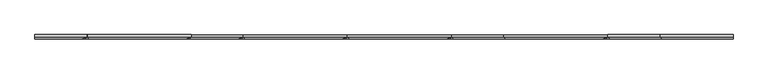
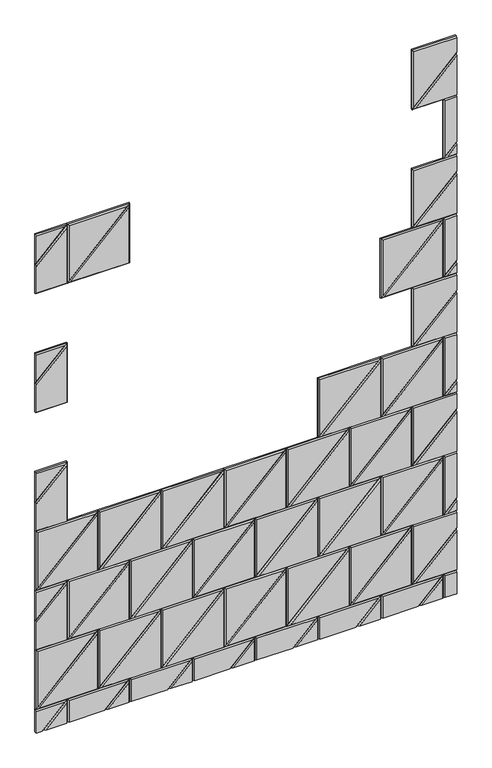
"""IFC4 building model written with IfcOpenShell, lengths in millimetres: proxy geometry, Wall_Akebia 4.3dm."""

from ifc_helpers import new_model, si_unit, origin, place, context, project, spatial, faceted_brep, source, transform, mapped, element, save


def generic_models_b079b841(model_context):
    return source(origin(), model_context, "Body", "Brep", [
        faceted_brep([(2403.2243169, 12.0, 2501.5492208), (2701.6743169, 12.0, 2501.5492208), (2403.2243169, 12.0, 2203.0992208), (2403.2243169, 6.0, 2501.5492208), (2403.2243169, 6.0, 2203.0992208), (2701.6743169, 6.0, 2501.5492208), (2687.1890355, 0.0, 2495.5492208), (2409.2243169, 0.0, 2495.5492208), (2409.2243169, 0.0, 2217.5845022)], [[[0, 1, 2]], [[3, 0, 2, 4]], [[4, 2, 1, 5]], [[5, 1, 0, 3]], [[6, 7, 8]], [[3, 4, 8, 7]], [[4, 5, 6, 8]], [[5, 3, 7, 6]]]),
        faceted_brep([(2701.6743169, 12.0, 2203.0992208), (2403.2243169, 12.0, 2203.0992208), (2701.6743169, 12.0, 2501.5492208), (2701.6743169, 6.0, 2203.0992208), (2403.2243169, 6.0, 2203.0992208), (2701.6743169, 6.0, 2501.5492208), (2695.6743169, 0.0, 2487.0639395), (2417.7095982, 0.0, 2209.0992208), (2695.6743169, 0.0, 2209.0992208)], [[[0, 1, 2]], [[3, 4, 1, 0]], [[4, 5, 2, 1]], [[5, 3, 0, 2]], [[6, 7, 8]], [[3, 8, 7, 4]], [[4, 7, 6, 5]], [[5, 6, 8, 3]]]),
        faceted_brep([(3895.4743169, 12.0, 0.0), (3895.4743169, 12.0, 113.9476625), (4193.9243169, 12.0, 113.9476625), (4079.9766543, 12.0, 0.0), (3895.4743169, 6.0, 0.0), (3895.4743169, 6.0, 113.9476625), (4079.9766543, 6.0, 0.0), (4193.9243169, 6.0, 113.9476625), (3901.4743169, 0.0, 0.0), (4071.491373, 0.0, 0.0), (4179.4390355, 0.0, 107.9476625), (3901.4743169, 0.0, 107.9476625)], [[[0, 1, 2, 3]], [[0, 4, 5, 1]], [[6, 3, 2, 7]], [[7, 2, 1, 5]], [[8, 9, 10, 11]], [[4, 8, 11, 5]], [[9, 6, 7, 10]], [[7, 5, 11, 10]], [[0, 3, 6, 9, 8, 4]]]),
        faceted_brep([(4193.9243169, 12.0, 0.0), (4079.9766543, 12.0, 0.0), (4193.9243169, 12.0, 113.9476625), (4079.9766543, 6.0, 0.0), (4193.9243169, 6.0, 113.9476625), (4193.9243169, 6.0, 0.0), (4187.9243169, 0.0, 0.0), (4187.9243169, 0.0, 99.4623811), (4088.4619357, 0.0, 0.0)], [[[0, 1, 2]], [[3, 4, 2, 1]], [[0, 2, 4, 5]], [[6, 7, 8]], [[8, 7, 4, 3]], [[5, 4, 7, 6]], [[0, 5, 6, 8, 3, 1]]]),
        faceted_brep([(4254.0, 12.0, 0.0), (4193.925, 12.0, 0.0), (4193.925, 12.0, 113.9484417), (4254.0, 12.0, 113.9484417), (4193.925, 6.0, 0.0), (4193.925, 6.0, 113.9484417), (4254.0, 6.0, 113.9484417), (4199.925, 0.0, 0.0), (4254.0, 0.0, 0.0), (4254.0, 0.0, 107.9484417), (4199.925, 0.0, 107.9484417)], [[[0, 1, 2, 3]], [[1, 4, 5, 2]], [[6, 3, 2, 5]], [[7, 8, 9, 10]], [[4, 7, 10, 5]], [[9, 6, 5, 10]], [[7, 4, 1, 0, 8]], [[0, 3, 6, 9, 8]]]),
        faceted_brep([(3597.0243169, 12.0, 0.0), (3597.0243169, 12.0, 113.9476625), (3895.4743169, 12.0, 113.9476625), (3781.5266543, 12.0, 0.0), (3597.0243169, 6.0, 0.0), (3597.0243169, 6.0, 113.9476625), (3781.5266543, 6.0, 0.0), (3895.4743169, 6.0, 113.9476625), (3603.0243169, 0.0, 0.0), (3773.041373, 0.0, 0.0), (3880.9890355, 0.0, 107.9476625), (3603.0243169, 0.0, 107.9476625)], [[[0, 1, 2, 3]], [[0, 4, 5, 1]], [[6, 3, 2, 7]], [[7, 2, 1, 5]], [[8, 9, 10, 11]], [[4, 8, 11, 5]], [[9, 6, 7, 10]], [[7, 5, 11, 10]], [[0, 3, 6, 9, 8, 4]]]),
        faceted_brep([(3895.4743169, 12.0, 0.0), (3781.5266543, 12.0, 0.0), (3895.4743169, 12.0, 113.9476625), (3781.5266543, 6.0, 0.0), (3895.4743169, 6.0, 113.9476625), (3895.4743169, 6.0, 0.0), (3889.4743169, 0.0, 0.0), (3889.4743169, 0.0, 99.4623811), (3790.0119357, 0.0, 0.0)], [[[0, 1, 2]], [[3, 4, 2, 1]], [[0, 2, 4, 5]], [[6, 7, 8]], [[8, 7, 4, 3]], [[5, 4, 7, 6]], [[0, 5, 6, 8, 3, 1]]]),
        faceted_brep([(3483.0767504, 12.0, 0.0), (3597.0236337, 12.0, 113.9468834), (3597.0236337, 12.0, 0.0), (3597.0236337, 6.0, 0.0), (3597.0236337, 6.0, 113.9468834), (3483.0767504, 6.0, 0.0), (3491.5620317, 0.0, 0.0), (3591.0236337, 0.0, 0.0), (3591.0236337, 0.0, 99.461602)], [[[0, 1, 2]], [[3, 2, 1, 4]], [[0, 5, 4, 1]], [[6, 7, 8]], [[7, 3, 4, 8]], [[5, 6, 8, 4]], [[0, 2, 3, 7, 6, 5]]]),
        faceted_brep([(3483.0767504, 12.0, 0.0), (3298.5736337, 12.0, 0.0), (3298.5736337, 12.0, 113.9468834), (3597.0236337, 12.0, 113.9468834), (3298.5736337, 6.0, 113.9468834), (3597.0236337, 6.0, 113.9468834), (3483.0767504, 6.0, 0.0), (3298.5736337, 6.0, 0.0), (3474.591469, 0.0, 0.0), (3582.5383524, 0.0, 107.9468834), (3304.5736337, 0.0, 107.9468834), (3304.5736337, 0.0, 0.0)], [[[0, 1, 2, 3]], [[4, 5, 3, 2]], [[0, 3, 5, 6]], [[7, 4, 2, 1]], [[8, 9, 10, 11]], [[4, 10, 9, 5]], [[6, 5, 9, 8]], [[11, 10, 4, 7]], [[0, 6, 8, 11, 7, 1]]]),
        faceted_brep([(3000.1236337, 12.0, 0.0), (3000.1236337, 12.0, 113.9468834), (3298.5736337, 12.0, 113.9468834), (3184.6267504, 12.0, 0.0), (3000.1236337, 6.0, 0.0), (3000.1236337, 6.0, 113.9468834), (3184.6267504, 6.0, 0.0), (3298.5736337, 6.0, 113.9468834), (3006.1236337, 0.0, 0.0), (3176.141469, 0.0, 0.0), (3284.0883524, 0.0, 107.9468834), (3006.1236337, 0.0, 107.9468834)], [[[0, 1, 2, 3]], [[0, 4, 5, 1]], [[6, 3, 2, 7]], [[7, 2, 1, 5]], [[8, 9, 10, 11]], [[4, 8, 11, 5]], [[9, 6, 7, 10]], [[7, 5, 11, 10]], [[0, 3, 6, 9, 8, 4]]]),
        faceted_brep([(3298.5736337, 12.0, 0.0), (3184.6267504, 12.0, 0.0), (3298.5736337, 12.0, 113.9468834), (3184.6267504, 6.0, 0.0), (3298.5736337, 6.0, 113.9468834), (3298.5736337, 6.0, 0.0), (3292.5736337, 0.0, 0.0), (3292.5736337, 0.0, 99.461602), (3193.1120317, 0.0, 0.0)], [[[0, 1, 2]], [[3, 4, 2, 1]], [[0, 2, 4, 5]], [[6, 7, 8]], [[8, 7, 4, 3]], [[5, 4, 7, 6]], [[0, 5, 6, 8, 3, 1]]]),
        faceted_brep([(2886.1768464, 12.0, 0.0), (3000.1229506, 12.0, 113.9461042), (3000.1229506, 12.0, 0.0), (3000.1229506, 6.0, 0.0), (3000.1229506, 6.0, 113.9461042), (2886.1768464, 6.0, 0.0), (2894.6621278, 0.0, 0.0), (2994.1229506, 0.0, 0.0), (2994.1229506, 0.0, 99.4608228)], [[[0, 1, 2]], [[3, 2, 1, 4]], [[0, 5, 4, 1]], [[6, 7, 8]], [[7, 3, 4, 8]], [[5, 6, 8, 4]], [[0, 2, 3, 7, 6, 5]]]),
        faceted_brep([(2886.1768464, 12.0, 0.0), (2701.6729506, 12.0, 0.0), (2701.6729506, 12.0, 113.9461042), (3000.1229506, 12.0, 113.9461042), (2701.6729506, 6.0, 113.9461042), (3000.1229506, 6.0, 113.9461042), (2886.1768464, 6.0, 0.0), (2701.6729506, 6.0, 0.0), (2877.691565, 0.0, 0.0), (2985.6376692, 0.0, 107.9461042), (2707.6729506, 0.0, 107.9461042), (2707.6729506, 0.0, 0.0)], [[[0, 1, 2, 3]], [[4, 5, 3, 2]], [[0, 3, 5, 6]], [[7, 4, 2, 1]], [[8, 9, 10, 11]], [[4, 10, 9, 5]], [[6, 5, 9, 8]], [[11, 10, 4, 7]], [[0, 6, 8, 11, 7, 1]]]),
        faceted_brep([(2403.2229506, 12.0, 0.0), (2403.2229506, 12.0, 113.9461042), (2701.6729506, 12.0, 113.9461042), (2587.7268464, 12.0, 0.0), (2403.2229506, 6.0, 0.0), (2403.2229506, 6.0, 113.9461042), (2587.7268464, 6.0, 0.0), (2701.6729506, 6.0, 113.9461042), (2409.2229506, 0.0, 0.0), (2579.241565, 0.0, 0.0), (2687.1876692, 0.0, 107.9461042), (2409.2229506, 0.0, 107.9461042)], [[[0, 1, 2, 3]], [[0, 4, 5, 1]], [[6, 3, 2, 7]], [[7, 2, 1, 5]], [[8, 9, 10, 11]], [[4, 8, 11, 5]], [[9, 6, 7, 10]], [[7, 5, 11, 10]], [[0, 3, 6, 9, 8, 4]]]),
        faceted_brep([(2701.6729506, 12.0, 0.0), (2587.7268464, 12.0, 0.0), (2701.6729506, 12.0, 113.9461042), (2587.7268464, 6.0, 0.0), (2701.6729506, 6.0, 113.9461042), (2701.6729506, 6.0, 0.0), (2695.6729506, 0.0, 0.0), (2695.6729506, 0.0, 99.4608228), (2596.2121278, 0.0, 0.0)], [[[0, 1, 2]], [[3, 4, 2, 1]], [[0, 2, 4, 5]], [[6, 7, 8]], [[8, 7, 4, 3]], [[5, 4, 7, 6]], [[0, 5, 6, 8, 3, 1]]]),
        faceted_brep([(2289.2769424, 12.0, 0.0), (2403.2222675, 12.0, 113.945325), (2403.2222675, 12.0, 0.0), (2403.2222675, 6.0, 0.0), (2403.2222675, 6.0, 113.945325), (2289.2769424, 6.0, 0.0), (2297.7622238, 0.0, 0.0), (2397.2222675, 0.0, 0.0), (2397.2222675, 0.0, 99.4600437)], [[[0, 1, 2]], [[3, 2, 1, 4]], [[0, 5, 4, 1]], [[6, 7, 8]], [[7, 3, 4, 8]], [[5, 6, 8, 4]], [[0, 2, 3, 7, 6, 5]]]),
        faceted_brep([(2254.0, 12.0, 0.0), (2254.0, 12.0, 113.945325), (2403.2222675, 12.0, 113.945325), (2289.2769424, 12.0, 0.0), (2254.0, 6.0, 113.945325), (2403.2222675, 6.0, 113.945325), (2289.2769424, 6.0, 0.0), (2280.7916611, 0.0, 0.0), (2388.7369861, 0.0, 107.945325), (2254.0, 0.0, 107.945325), (2254.0, 0.0, 0.0)], [[[0, 1, 2, 3]], [[4, 5, 2, 1]], [[3, 2, 5, 6]], [[7, 8, 9, 10]], [[9, 8, 5, 4]], [[6, 5, 8, 7]], [[0, 10, 9, 4, 1]], [[7, 10, 0, 3, 6]]]),
        faceted_brep([(4254.0, 12.0, 323.2484417), (4044.7, 12.0, 113.9484417), (4044.7, 12.0, 412.3984417), (4254.0, 12.0, 412.3984417), (4044.7, 6.0, 412.3984417), (4044.7, 6.0, 113.9484417), (4254.0, 6.0, 323.2484417), (4254.0, 6.0, 412.3984417), (4254.0, 0.0, 331.7337231), (4254.0, 0.0, 406.3984417), (4050.7, 0.0, 406.3984417), (4050.7, 0.0, 128.4337231)], [[[0, 1, 2, 3]], [[4, 2, 1, 5]], [[0, 6, 5, 1]], [[7, 3, 2, 4]], [[8, 9, 10, 11]], [[4, 5, 11, 10]], [[6, 8, 11, 5]], [[9, 7, 4, 10]], [[0, 3, 7, 9, 8, 6]]]),
        faceted_brep([(4254.0, 12.0, 323.2484417), (4254.0, 12.0, 113.9484417), (4044.7, 12.0, 113.9484417), (4254.0, 6.0, 113.9484417), (4044.7, 6.0, 113.9484417), (4254.0, 6.0, 323.2484417), (4254.0, 0.0, 314.7631603), (4059.1852814, 0.0, 119.9484417), (4254.0, 0.0, 119.9484417)], [[[0, 1, 2]], [[3, 4, 2, 1]], [[0, 2, 4, 5]], [[6, 7, 8]], [[8, 7, 4, 3]], [[5, 4, 7, 6]], [[0, 5, 6, 8, 3, 1]]]),
        faceted_brep([(4254.0, 12.0, 472.4735377), (4254.0, 12.0, 412.3992208), (4193.9256831, 12.0, 412.3992208), (4254.0, 6.0, 412.3992208), (4193.9256831, 6.0, 412.3992208), (4254.0, 6.0, 472.4735377), (4254.0, 0.0, 463.9882563), (4208.4109645, 0.0, 418.3992208), (4254.0, 0.0, 418.3992208)], [[[0, 1, 2]], [[3, 4, 2, 1]], [[0, 2, 4, 5]], [[6, 7, 8]], [[8, 7, 4, 3]], [[5, 4, 7, 6]], [[0, 5, 6, 8, 3, 1]]]),
        faceted_brep([(4254.0, 12.0, 472.4735377), (4193.9256831, 12.0, 412.3992208), (4193.9256831, 12.0, 710.8492208), (4254.0, 12.0, 710.8492208), (4193.9256831, 6.0, 710.8492208), (4193.9256831, 6.0, 412.3992208), (4254.0, 6.0, 472.4735377), (4254.0, 6.0, 710.8492208), (4254.0, 0.0, 480.9588191), (4254.0, 0.0, 704.8492208), (4199.9256831, 0.0, 704.8492208), (4199.9256831, 0.0, 426.8845022)], [[[0, 1, 2, 3]], [[4, 2, 1, 5]], [[0, 6, 5, 1]], [[7, 3, 2, 4]], [[8, 9, 10, 11]], [[4, 5, 11, 10]], [[6, 8, 11, 5]], [[9, 7, 4, 10]], [[0, 3, 7, 9, 8, 6]]]),
        faceted_brep([(2254.0, 12.0, 561.6231536), (2403.2229506, 12.0, 710.8461042), (2403.2229506, 12.0, 412.3961042), (2254.0, 12.0, 412.3961042), (2403.2229506, 6.0, 412.3961042), (2403.2229506, 6.0, 710.8461042), (2254.0, 6.0, 561.6231536), (2254.0, 6.0, 412.3961042), (2254.0, 0.0, 553.1378722), (2254.0, 0.0, 418.3961042), (2397.2229506, 0.0, 418.3961042), (2397.2229506, 0.0, 696.3608228)], [[[0, 1, 2, 3]], [[4, 2, 1, 5]], [[0, 6, 5, 1]], [[7, 3, 2, 4]], [[8, 9, 10, 11]], [[4, 5, 11, 10]], [[6, 8, 11, 5]], [[9, 7, 4, 10]], [[0, 3, 7, 9, 8, 6]]]),
        faceted_brep([(2254.0, 12.0, 561.6231536), (2254.0, 12.0, 710.8461042), (2403.2229506, 12.0, 710.8461042), (2254.0, 6.0, 710.8461042), (2403.2229506, 6.0, 710.8461042), (2254.0, 6.0, 561.6231536), (2254.0, 0.0, 570.108435), (2388.7376692, 0.0, 704.8461042), (2254.0, 0.0, 704.8461042)], [[[0, 1, 2]], [[3, 4, 2, 1]], [[0, 2, 4, 5]], [[6, 7, 8]], [[8, 7, 4, 3]], [[5, 4, 7, 6]], [[0, 5, 6, 8, 3, 1]]]),
        faceted_brep([(4254.0, 12.0, 920.1485377), (4044.7006831, 12.0, 710.8492208), (4044.7006831, 12.0, 1009.2992208), (4254.0, 12.0, 1009.2992208), (4044.7006831, 6.0, 1009.2992208), (4044.7006831, 6.0, 710.8492208), (4254.0, 6.0, 920.1485377), (4254.0, 6.0, 1009.2992208), (4254.0, 0.0, 928.6338191), (4254.0, 0.0, 1003.2992208), (4050.7006831, 0.0, 1003.2992208), (4050.7006831, 0.0, 725.3345022)], [[[0, 1, 2, 3]], [[4, 2, 1, 5]], [[0, 6, 5, 1]], [[7, 3, 2, 4]], [[8, 9, 10, 11]], [[4, 5, 11, 10]], [[6, 8, 11, 5]], [[9, 7, 4, 10]], [[0, 3, 7, 9, 8, 6]]]),
        faceted_brep([(4254.0, 12.0, 920.1485377), (4254.0, 12.0, 710.8492208), (4044.7006831, 12.0, 710.8492208), (4254.0, 6.0, 710.8492208), (4044.7006831, 6.0, 710.8492208), (4254.0, 6.0, 920.1485377), (4254.0, 0.0, 911.6632563), (4059.1859645, 0.0, 716.8492208), (4254.0, 0.0, 716.8492208)], [[[0, 1, 2]], [[3, 4, 2, 1]], [[0, 2, 4, 5]], [[6, 7, 8]], [[8, 7, 4, 3]], [[5, 4, 7, 6]], [[0, 5, 6, 8, 3, 1]]]),
        faceted_brep([(4254.0, 12.0, 1069.3736337), (4254.0, 12.0, 1009.3), (4193.9263663, 12.0, 1009.3), (4254.0, 6.0, 1009.3), (4193.9263663, 6.0, 1009.3), (4254.0, 6.0, 1069.3736337), (4254.0, 0.0, 1060.8883524), (4208.4116476, 0.0, 1015.3), (4254.0, 0.0, 1015.3)], [[[0, 1, 2]], [[3, 4, 2, 1]], [[0, 2, 4, 5]], [[6, 7, 8]], [[8, 7, 4, 3]], [[5, 4, 7, 6]], [[0, 5, 6, 8, 3, 1]]]),
        faceted_brep([(4254.0, 12.0, 1069.3736337), (4193.9263663, 12.0, 1009.3), (4193.9263663, 12.0, 1307.75), (4254.0, 12.0, 1307.75), (4193.9263663, 6.0, 1307.75), (4193.9263663, 6.0, 1009.3), (4254.0, 6.0, 1069.3736337), (4254.0, 6.0, 1307.75), (4254.0, 0.0, 1077.8589151), (4254.0, 0.0, 1301.75), (4199.9263663, 0.0, 1301.75), (4199.9263663, 0.0, 1023.7852814)], [[[0, 1, 2, 3]], [[4, 2, 1, 5]], [[0, 6, 5, 1]], [[7, 3, 2, 4]], [[8, 9, 10, 11]], [[4, 5, 11, 10]], [[6, 8, 11, 5]], [[9, 7, 4, 10]], [[0, 3, 7, 9, 8, 6]]]),
        faceted_brep([(2254.0, 12.0, 1158.5232496), (2403.2236337, 12.0, 1307.7468834), (2403.2236337, 12.0, 1009.2968834), (2254.0, 12.0, 1009.2968834), (2403.2236337, 6.0, 1009.2968834), (2403.2236337, 6.0, 1307.7468834), (2254.0, 6.0, 1158.5232496), (2254.0, 6.0, 1009.2968834), (2254.0, 0.0, 1150.0379683), (2254.0, 0.0, 1015.2968834), (2397.2236337, 0.0, 1015.2968834), (2397.2236337, 0.0, 1293.261602)], [[[0, 1, 2, 3]], [[4, 2, 1, 5]], [[0, 6, 5, 1]], [[7, 3, 2, 4]], [[8, 9, 10, 11]], [[4, 5, 11, 10]], [[6, 8, 11, 5]], [[9, 7, 4, 10]], [[0, 3, 7, 9, 8, 6]]]),
        faceted_brep([(2254.0, 12.0, 1158.5232496), (2254.0, 12.0, 1307.7468834), (2403.2236337, 12.0, 1307.7468834), (2254.0, 6.0, 1307.7468834), (2403.2236337, 6.0, 1307.7468834), (2254.0, 6.0, 1158.5232496), (2254.0, 0.0, 1167.008531), (2388.7383524, 0.0, 1301.7468834), (2254.0, 0.0, 1301.7468834)], [[[0, 1, 2]], [[3, 4, 2, 1]], [[0, 2, 4, 5]], [[6, 7, 8]], [[8, 7, 4, 3]], [[5, 4, 7, 6]], [[0, 5, 6, 8, 3, 1]]]),
        faceted_brep([(4254.0, 12.0, 1517.0486337), (4044.7013663, 12.0, 1307.75), (4044.7013663, 12.0, 1606.2), (4254.0, 12.0, 1606.2), (4044.7013663, 6.0, 1606.2), (4044.7013663, 6.0, 1307.75), (4254.0, 6.0, 1517.0486337), (4254.0, 6.0, 1606.2), (4254.0, 0.0, 1525.5339151), (4254.0, 0.0, 1600.2), (4050.7013663, 0.0, 1600.2), (4050.7013663, 0.0, 1322.2352814)], [[[0, 1, 2, 3]], [[4, 2, 1, 5]], [[0, 6, 5, 1]], [[7, 3, 2, 4]], [[8, 9, 10, 11]], [[4, 5, 11, 10]], [[6, 8, 11, 5]], [[9, 7, 4, 10]], [[0, 3, 7, 9, 8, 6]]]),
        faceted_brep([(4254.0, 12.0, 1517.0486337), (4254.0, 12.0, 1307.75), (4044.7013663, 12.0, 1307.75), (4254.0, 6.0, 1307.75), (4044.7013663, 6.0, 1307.75), (4254.0, 6.0, 1517.0486337), (4254.0, 0.0, 1508.5633524), (4059.1866476, 0.0, 1313.75), (4254.0, 0.0, 1313.75)], [[[0, 1, 2]], [[3, 4, 2, 1]], [[0, 2, 4, 5]], [[6, 7, 8]], [[8, 7, 4, 3]], [[5, 4, 7, 6]], [[0, 5, 6, 8, 3, 1]]]),
        faceted_brep([(4254.0, 12.0, 1666.2737298), (4254.0, 12.0, 1606.2007792), (4193.9270494, 12.0, 1606.2007792), (4254.0, 6.0, 1606.2007792), (4193.9270494, 6.0, 1606.2007792), (4254.0, 6.0, 1666.2737298), (4254.0, 0.0, 1657.7884484), (4208.4123308, 0.0, 1612.2007792), (4254.0, 0.0, 1612.2007792)], [[[0, 1, 2]], [[3, 4, 2, 1]], [[0, 2, 4, 5]], [[6, 7, 8]], [[8, 7, 4, 3]], [[5, 4, 7, 6]], [[0, 5, 6, 8, 3, 1]]]),
        faceted_brep([(4254.0, 12.0, 1666.2737298), (4193.9270494, 12.0, 1606.2007792), (4193.9270494, 12.0, 1904.6507792), (4254.0, 12.0, 1904.6507792), (4193.9270494, 6.0, 1904.6507792), (4193.9270494, 6.0, 1606.2007792), (4254.0, 6.0, 1666.2737298), (4254.0, 6.0, 1904.6507792), (4254.0, 0.0, 1674.7590111), (4254.0, 0.0, 1898.6507792), (4199.9270494, 0.0, 1898.6507792), (4199.9270494, 0.0, 1620.6860605)], [[[0, 1, 2, 3]], [[4, 2, 1, 5]], [[0, 6, 5, 1]], [[7, 3, 2, 4]], [[8, 9, 10, 11]], [[4, 5, 11, 10]], [[6, 8, 11, 5]], [[9, 7, 4, 10]], [[0, 3, 7, 9, 8, 6]]]),
        faceted_brep([(2254.0, 12.0, 1755.4233457), (2403.2243169, 12.0, 1904.6476625), (2403.2243169, 12.0, 1606.1976625), (2254.0, 12.0, 1606.1976625), (2403.2243169, 6.0, 1606.1976625), (2403.2243169, 6.0, 1904.6476625), (2254.0, 6.0, 1755.4233457), (2254.0, 6.0, 1606.1976625), (2254.0, 0.0, 1746.9380643), (2254.0, 0.0, 1612.1976625), (2397.2243169, 0.0, 1612.1976625), (2397.2243169, 0.0, 1890.1623811)], [[[0, 1, 2, 3]], [[4, 2, 1, 5]], [[0, 6, 5, 1]], [[7, 3, 2, 4]], [[8, 9, 10, 11]], [[4, 5, 11, 10]], [[6, 8, 11, 5]], [[9, 7, 4, 10]], [[0, 3, 7, 9, 8, 6]]]),
        faceted_brep([(2254.0, 12.0, 1755.4233457), (2254.0, 12.0, 1904.6476625), (2403.2243169, 12.0, 1904.6476625), (2254.0, 6.0, 1904.6476625), (2403.2243169, 6.0, 1904.6476625), (2254.0, 6.0, 1755.4233457), (2254.0, 0.0, 1763.908627), (2388.7390355, 0.0, 1898.6476625), (2254.0, 0.0, 1898.6476625)], [[[0, 1, 2]], [[3, 4, 2, 1]], [[0, 2, 4, 5]], [[6, 7, 8]], [[8, 7, 4, 3]], [[5, 4, 7, 6]], [[0, 5, 6, 8, 3, 1]]]),
        faceted_brep([(4254.0, 12.0, 2113.9487298), (4044.7020494, 12.0, 1904.6507792), (4044.7020494, 12.0, 2203.1007792), (4254.0, 12.0, 2203.1007792), (4044.7020494, 6.0, 2203.1007792), (4044.7020494, 6.0, 1904.6507792), (4254.0, 6.0, 2113.9487298), (4254.0, 6.0, 2203.1007792), (4254.0, 0.0, 2122.4340111), (4254.0, 0.0, 2197.1007792), (4050.7020494, 0.0, 2197.1007792), (4050.7020494, 0.0, 1919.1360605)], [[[0, 1, 2, 3]], [[4, 2, 1, 5]], [[0, 6, 5, 1]], [[7, 3, 2, 4]], [[8, 9, 10, 11]], [[4, 5, 11, 10]], [[6, 8, 11, 5]], [[9, 7, 4, 10]], [[0, 3, 7, 9, 8, 6]]]),
        faceted_brep([(4254.0, 12.0, 2113.9487298), (4254.0, 12.0, 1904.6507792), (4044.7020494, 12.0, 1904.6507792), (4254.0, 6.0, 1904.6507792), (4044.7020494, 6.0, 1904.6507792), (4254.0, 6.0, 2113.9487298), (4254.0, 0.0, 2105.4634484), (4059.1873308, 0.0, 1910.6507792), (4254.0, 0.0, 1910.6507792)], [[[0, 1, 2]], [[3, 4, 2, 1]], [[0, 2, 4, 5]], [[6, 7, 8]], [[8, 7, 4, 3]], [[5, 4, 7, 6]], [[0, 5, 6, 8, 3, 1]]]),
        faceted_brep([(4254.0, 12.0, 2263.1751921), (4254.0, 12.0, 2203.1015583), (4193.9263663, 12.0, 2203.1015583), (4254.0, 6.0, 2203.1015583), (4193.9263663, 6.0, 2203.1015583), (4254.0, 6.0, 2263.1751921), (4254.0, 0.0, 2254.6899107), (4208.4116476, 0.0, 2209.1015583), (4254.0, 0.0, 2209.1015583)], [[[0, 1, 2]], [[3, 4, 2, 1]], [[0, 2, 4, 5]], [[6, 7, 8]], [[8, 7, 4, 3]], [[5, 4, 7, 6]], [[0, 5, 6, 8, 3, 1]]]),
        faceted_brep([(4254.0, 12.0, 2263.1751921), (4193.9263663, 12.0, 2203.1015583), (4193.9263663, 12.0, 2501.5515583), (4254.0, 12.0, 2501.5515583), (4193.9263663, 6.0, 2501.5515583), (4193.9263663, 6.0, 2203.1015583), (4254.0, 6.0, 2263.1751921), (4254.0, 6.0, 2501.5515583), (4254.0, 0.0, 2271.6604734), (4254.0, 0.0, 2495.5515583), (4199.9263663, 0.0, 2495.5515583), (4199.9263663, 0.0, 2217.5868397)], [[[0, 1, 2, 3]], [[4, 2, 1, 5]], [[0, 6, 5, 1]], [[7, 3, 2, 4]], [[8, 9, 10, 11]], [[4, 5, 11, 10]], [[6, 8, 11, 5]], [[9, 7, 4, 10]], [[0, 3, 7, 9, 8, 6]]]),
        faceted_brep([(2254.0, 12.0, 2352.3248079), (2403.2236337, 12.0, 2501.5484417), (2403.2236337, 12.0, 2203.0984417), (2254.0, 12.0, 2203.0984417), (2403.2236337, 6.0, 2203.0984417), (2403.2236337, 6.0, 2501.5484417), (2254.0, 6.0, 2352.3248079), (2254.0, 6.0, 2203.0984417), (2254.0, 0.0, 2343.8395266), (2254.0, 0.0, 2209.0984417), (2397.2236337, 0.0, 2209.0984417), (2397.2236337, 0.0, 2487.0631603)], [[[0, 1, 2, 3]], [[4, 2, 1, 5]], [[0, 6, 5, 1]], [[7, 3, 2, 4]], [[8, 9, 10, 11]], [[4, 5, 11, 10]], [[6, 8, 11, 5]], [[9, 7, 4, 10]], [[0, 3, 7, 9, 8, 6]]]),
        faceted_brep([(2254.0, 12.0, 2352.3248079), (2254.0, 12.0, 2501.5484417), (2403.2236337, 12.0, 2501.5484417), (2254.0, 6.0, 2501.5484417), (2403.2236337, 6.0, 2501.5484417), (2254.0, 6.0, 2352.3248079), (2254.0, 0.0, 2360.8100893), (2388.7383524, 0.0, 2495.5484417), (2254.0, 0.0, 2495.5484417)], [[[0, 1, 2]], [[3, 4, 2, 1]], [[0, 2, 4, 5]], [[6, 7, 8]], [[8, 7, 4, 3]], [[5, 4, 7, 6]], [[0, 5, 6, 8, 3, 1]]]),
        faceted_brep([(4254.0, 12.0, 2710.8501921), (4044.7013663, 12.0, 2501.5515583), (4044.7013663, 12.0, 2800.0), (4254.0, 12.0, 2800.0), (4044.7013663, 5.9992208, 2800.0), (4044.7013663, 6.0, 2501.5515583), (4254.0, 6.0, 2710.8501921), (4254.0, 0.0, 2719.3354734), (4254.0, 0.0, 2794.0015583), (4050.7013663, 0.0, 2794.0015583), (4050.7013663, 0.0, 2516.0368397), (4254.0, 5.9984417, 2800.0)], [[[0, 1, 2, 3]], [[4, 2, 1, 5]], [[0, 6, 5, 1]], [[7, 8, 9, 10]], [[4, 5, 10, 9]], [[6, 7, 10, 5]], [[8, 11, 4, 9]], [[3, 2, 4, 11]], [[0, 3, 11, 8, 7, 6]]]),
        faceted_brep([(4254.0, 12.0, 2710.8501921), (4254.0, 12.0, 2501.5515583), (4044.7013663, 12.0, 2501.5515583), (4254.0, 6.0, 2501.5515583), (4044.7013663, 6.0, 2501.5515583), (4254.0, 6.0, 2710.8501921), (4254.0, 0.0, 2702.3649107), (4059.1866476, 0.0, 2507.5515583), (4254.0, 0.0, 2507.5515583)], [[[0, 1, 2]], [[3, 4, 2, 1]], [[0, 2, 4, 5]], [[6, 7, 8]], [[8, 7, 4, 3]], [[5, 4, 7, 6]], [[0, 5, 6, 8, 3, 1]]]),
        faceted_brep([(3895.475, 12.0, 710.8484417), (4193.925, 12.0, 710.8484417), (3895.475, 12.0, 412.3984417), (3895.475, 6.0, 710.8484417), (3895.475, 6.0, 412.3984417), (4193.925, 6.0, 710.8484417), (4179.4397186, 0.0, 704.8484417), (3901.475, 0.0, 704.8484417), (3901.475, 0.0, 426.8837231)], [[[0, 1, 2]], [[3, 0, 2, 4]], [[4, 2, 1, 5]], [[5, 1, 0, 3]], [[6, 7, 8]], [[3, 4, 8, 7]], [[4, 5, 6, 8]], [[5, 3, 7, 6]]]),
        faceted_brep([(4193.925, 12.0, 412.3984417), (3895.475, 12.0, 412.3984417), (4193.925, 12.0, 710.8484417), (4193.925, 6.0, 412.3984417), (3895.475, 6.0, 412.3984417), (4193.925, 6.0, 710.8484417), (4187.925, 0.0, 696.3631603), (3909.9602814, 0.0, 418.3984417), (4187.925, 0.0, 418.3984417)], [[[0, 1, 2]], [[3, 4, 1, 0]], [[4, 5, 2, 1]], [[5, 3, 0, 2]], [[6, 7, 8]], [[3, 8, 7, 4]], [[4, 7, 6, 5]], [[5, 6, 8, 3]]]),
        faceted_brep([(3895.4756831, 12.0, 1307.7492208), (4193.9256831, 12.0, 1307.7492208), (3895.4756831, 12.0, 1009.2992208), (3895.4756831, 6.0, 1307.7492208), (3895.4756831, 6.0, 1009.2992208), (4193.9256831, 6.0, 1307.7492208), (4179.4404018, 0.0, 1301.7492208), (3901.4756831, 0.0, 1301.7492208), (3901.4756831, 0.0, 1023.7845022)], [[[0, 1, 2]], [[3, 0, 2, 4]], [[4, 2, 1, 5]], [[5, 1, 0, 3]], [[6, 7, 8]], [[3, 4, 8, 7]], [[4, 5, 6, 8]], [[5, 3, 7, 6]]]),
        faceted_brep([(4193.9256831, 12.0, 1009.2992208), (3895.4756831, 12.0, 1009.2992208), (4193.9256831, 12.0, 1307.7492208), (4193.9256831, 6.0, 1009.2992208), (3895.4756831, 6.0, 1009.2992208), (4193.9256831, 6.0, 1307.7492208), (4187.9256831, 0.0, 1293.2639395), (3909.9609645, 0.0, 1015.2992208), (4187.9256831, 0.0, 1015.2992208)], [[[0, 1, 2]], [[3, 4, 1, 0]], [[4, 5, 2, 1]], [[5, 3, 0, 2]], [[6, 7, 8]], [[3, 8, 7, 4]], [[4, 7, 6, 5]], [[5, 6, 8, 3]]]),
        faceted_brep([(3895.4763663, 12.0, 1904.65), (4193.9263663, 12.0, 1904.65), (3895.4763663, 12.0, 1606.2), (3895.4763663, 6.0, 1904.65), (3895.4763663, 6.0, 1606.2), (4193.9263663, 6.0, 1904.65), (4179.4410849, 0.0, 1898.65), (3901.4763663, 0.0, 1898.65), (3901.4763663, 0.0, 1620.6852814)], [[[0, 1, 2]], [[3, 0, 2, 4]], [[4, 2, 1, 5]], [[5, 1, 0, 3]], [[6, 7, 8]], [[3, 4, 8, 7]], [[4, 5, 6, 8]], [[5, 3, 7, 6]]]),
        faceted_brep([(4193.9263663, 12.0, 1606.2), (3895.4763663, 12.0, 1606.2), (4193.9263663, 12.0, 1904.65), (4193.9263663, 6.0, 1606.2), (3895.4763663, 6.0, 1606.2), (4193.9263663, 6.0, 1904.65), (4187.9263663, 0.0, 1890.1647186), (3909.9616476, 0.0, 1612.2), (4187.9263663, 0.0, 1612.2)], [[[0, 1, 2]], [[3, 4, 1, 0]], [[4, 5, 2, 1]], [[5, 3, 0, 2]], [[6, 7, 8]], [[3, 8, 7, 4]], [[4, 7, 6, 5]], [[5, 6, 8, 3]]]),
        faceted_brep([(3746.25, 12.0, 412.3984417), (4044.7, 12.0, 412.3984417), (3746.25, 12.0, 113.9484417), (3746.25, 6.0, 412.3984417), (3746.25, 6.0, 113.9484417), (4044.7, 6.0, 412.3984417), (4030.2147186, 0.0, 406.3984417), (3752.25, 0.0, 406.3984417), (3752.25, 0.0, 128.4337231)], [[[0, 1, 2]], [[3, 0, 2, 4]], [[4, 2, 1, 5]], [[5, 1, 0, 3]], [[6, 7, 8]], [[3, 4, 8, 7]], [[4, 5, 6, 8]], [[5, 3, 7, 6]]]),
        faceted_brep([(4044.7, 12.0, 113.9484417), (3746.25, 12.0, 113.9484417), (4044.7, 12.0, 412.3984417), (4044.7, 6.0, 113.9484417), (3746.25, 6.0, 113.9484417), (4044.7, 6.0, 412.3984417), (4038.7, 0.0, 397.9131603), (3760.7352814, 0.0, 119.9484417), (4038.7, 0.0, 119.9484417)], [[[0, 1, 2]], [[3, 4, 1, 0]], [[4, 5, 2, 1]], [[5, 3, 0, 2]], [[6, 7, 8]], [[3, 8, 7, 4]], [[4, 7, 6, 5]], [[5, 6, 8, 3]]]),
        faceted_brep([(3746.2493169, 12.0, 113.9476625), (3447.7993169, 12.0, 113.9476625), (3746.2493169, 12.0, 412.3976625), (3746.2493169, 6.0, 113.9476625), (3746.2493169, 6.0, 412.3976625), (3447.7993169, 6.0, 113.9476625), (3462.2845982, 0.0, 119.9476625), (3740.2493169, 0.0, 119.9476625), (3740.2493169, 0.0, 397.9123811)], [[[0, 1, 2]], [[3, 0, 2, 4]], [[4, 2, 1, 5]], [[5, 1, 0, 3]], [[6, 7, 8]], [[3, 4, 8, 7]], [[4, 5, 6, 8]], [[5, 3, 7, 6]]]),
        faceted_brep([(3447.7993169, 12.0, 412.3976625), (3746.2493169, 12.0, 412.3976625), (3447.7993169, 12.0, 113.9476625), (3447.7993169, 6.0, 412.3976625), (3746.2493169, 6.0, 412.3976625), (3447.7993169, 6.0, 113.9476625), (3453.7993169, 0.0, 128.4329439), (3731.7640355, 0.0, 406.3976625), (3453.7993169, 0.0, 406.3976625)], [[[0, 1, 2]], [[3, 4, 1, 0]], [[4, 5, 2, 1]], [[5, 3, 0, 2]], [[6, 7, 8]], [[3, 8, 7, 4]], [[4, 7, 6, 5]], [[5, 6, 8, 3]]]),
        faceted_brep([(3149.3493169, 12.0, 412.3976625), (3447.7993169, 12.0, 412.3976625), (3149.3493169, 12.0, 113.9476625), (3149.3493169, 6.0, 412.3976625), (3149.3493169, 6.0, 113.9476625), (3447.7993169, 6.0, 412.3976625), (3433.3140355, 0.0, 406.3976625), (3155.3493169, 0.0, 406.3976625), (3155.3493169, 0.0, 128.4329439)], [[[0, 1, 2]], [[3, 0, 2, 4]], [[4, 2, 1, 5]], [[5, 1, 0, 3]], [[6, 7, 8]], [[3, 4, 8, 7]], [[4, 5, 6, 8]], [[5, 3, 7, 6]]]),
        faceted_brep([(3447.7993169, 12.0, 113.9476625), (3149.3493169, 12.0, 113.9476625), (3447.7993169, 12.0, 412.3976625), (3447.7993169, 6.0, 113.9476625), (3149.3493169, 6.0, 113.9476625), (3447.7993169, 6.0, 412.3976625), (3441.7993169, 0.0, 397.9123811), (3163.8345982, 0.0, 119.9476625), (3441.7993169, 0.0, 119.9476625)], [[[0, 1, 2]], [[3, 4, 1, 0]], [[4, 5, 2, 1]], [[5, 3, 0, 2]], [[6, 7, 8]], [[3, 8, 7, 4]], [[4, 7, 6, 5]], [[5, 6, 8, 3]]]),
        faceted_brep([(3149.3486337, 12.0, 113.9468834), (2850.8986337, 12.0, 113.9468834), (3149.3486337, 12.0, 412.3968834), (3149.3486337, 6.0, 113.9468834), (3149.3486337, 6.0, 412.3968834), (2850.8986337, 6.0, 113.9468834), (2865.3839151, 0.0, 119.9468834), (3143.3486337, 0.0, 119.9468834), (3143.3486337, 0.0, 397.911602)], [[[0, 1, 2]], [[3, 0, 2, 4]], [[4, 2, 1, 5]], [[5, 1, 0, 3]], [[6, 7, 8]], [[3, 4, 8, 7]], [[4, 5, 6, 8]], [[5, 3, 7, 6]]]),
        faceted_brep([(2850.8986337, 12.0, 412.3968834), (3149.3486337, 12.0, 412.3968834), (2850.8986337, 12.0, 113.9468834), (2850.8986337, 6.0, 412.3968834), (3149.3486337, 6.0, 412.3968834), (2850.8986337, 6.0, 113.9468834), (2856.8986337, 0.0, 128.4321647), (3134.8633524, 0.0, 406.3968834), (2856.8986337, 0.0, 406.3968834)], [[[0, 1, 2]], [[3, 4, 1, 0]], [[4, 5, 2, 1]], [[5, 3, 0, 2]], [[6, 7, 8]], [[3, 8, 7, 4]], [[4, 7, 6, 5]], [[5, 6, 8, 3]]]),
        faceted_brep([(2552.4486337, 12.0, 412.3968834), (2850.8986337, 12.0, 412.3968834), (2552.4486337, 12.0, 113.9468834), (2552.4486337, 6.0, 412.3968834), (2552.4486337, 6.0, 113.9468834), (2850.8986337, 6.0, 412.3968834), (2836.4133524, 0.0, 406.3968834), (2558.4486337, 0.0, 406.3968834), (2558.4486337, 0.0, 128.4321647)], [[[0, 1, 2]], [[3, 0, 2, 4]], [[4, 2, 1, 5]], [[5, 1, 0, 3]], [[6, 7, 8]], [[3, 4, 8, 7]], [[4, 5, 6, 8]], [[5, 3, 7, 6]]]),
        faceted_brep([(2850.8986337, 12.0, 113.9468834), (2552.4486337, 12.0, 113.9468834), (2850.8986337, 12.0, 412.3968834), (2850.8986337, 6.0, 113.9468834), (2552.4486337, 6.0, 113.9468834), (2850.8986337, 6.0, 412.3968834), (2844.8986337, 0.0, 397.911602), (2566.9339151, 0.0, 119.9468834), (2844.8986337, 0.0, 119.9468834)], [[[0, 1, 2]], [[3, 4, 1, 0]], [[4, 5, 2, 1]], [[5, 3, 0, 2]], [[6, 7, 8]], [[3, 8, 7, 4]], [[4, 7, 6, 5]], [[5, 6, 8, 3]]]),
        faceted_brep([(2552.4479506, 12.0, 113.9461042), (2253.9979506, 12.0, 113.9461042), (2552.4479506, 12.0, 412.3961042), (2552.4479506, 6.0, 113.9461042), (2552.4479506, 6.0, 412.3961042), (2253.9979506, 6.0, 113.9461042), (2268.483232, 0.0, 119.9461042), (2546.4479506, 0.0, 119.9461042), (2546.4479506, 0.0, 397.9108228)], [[[0, 1, 2]], [[3, 0, 2, 4]], [[4, 2, 1, 5]], [[5, 1, 0, 3]], [[6, 7, 8]], [[3, 4, 8, 7]], [[4, 5, 6, 8]], [[5, 3, 7, 6]]]),
        faceted_brep([(2253.9979506, 12.0, 412.3961042), (2552.4479506, 12.0, 412.3961042), (2253.9979506, 12.0, 113.9461042), (2253.9979506, 6.0, 412.3961042), (2552.4479506, 6.0, 412.3961042), (2253.9979506, 6.0, 113.9461042), (2259.9979506, 0.0, 128.4313856), (2537.9626692, 0.0, 406.3961042), (2259.9979506, 0.0, 406.3961042)], [[[0, 1, 2]], [[3, 4, 1, 0]], [[4, 5, 2, 1]], [[5, 3, 0, 2]], [[6, 7, 8]], [[3, 8, 7, 4]], [[4, 7, 6, 5]], [[5, 6, 8, 3]]]),
        faceted_brep([(3597.025, 12.0, 710.8484417), (3895.475, 12.0, 710.8484417), (3597.025, 12.0, 412.3984417), (3597.025, 6.0, 710.8484417), (3597.025, 6.0, 412.3984417), (3895.475, 6.0, 710.8484417), (3880.9897186, 0.0, 704.8484417), (3603.025, 0.0, 704.8484417), (3603.025, 0.0, 426.8837231)], [[[0, 1, 2]], [[3, 0, 2, 4]], [[4, 2, 1, 5]], [[5, 1, 0, 3]], [[6, 7, 8]], [[3, 4, 8, 7]], [[4, 5, 6, 8]], [[5, 3, 7, 6]]]),
        faceted_brep([(3895.475, 12.0, 412.3984417), (3597.025, 12.0, 412.3984417), (3895.475, 12.0, 710.8484417), (3895.475, 6.0, 412.3984417), (3597.025, 6.0, 412.3984417), (3895.475, 6.0, 710.8484417), (3889.475, 0.0, 696.3631603), (3611.5102814, 0.0, 418.3984417), (3889.475, 0.0, 418.3984417)], [[[0, 1, 2]], [[3, 4, 1, 0]], [[4, 5, 2, 1]], [[5, 3, 0, 2]], [[6, 7, 8]], [[3, 8, 7, 4]], [[4, 7, 6, 5]], [[5, 6, 8, 3]]]),
        faceted_brep([(3597.0243169, 12.0, 412.3976625), (3298.5743169, 12.0, 412.3976625), (3597.0243169, 12.0, 710.8476625), (3597.0243169, 6.0, 412.3976625), (3597.0243169, 6.0, 710.8476625), (3298.5743169, 6.0, 412.3976625), (3313.0595982, 0.0, 418.3976625), (3591.0243169, 0.0, 418.3976625), (3591.0243169, 0.0, 696.3623811)], [[[0, 1, 2]], [[3, 0, 2, 4]], [[4, 2, 1, 5]], [[5, 1, 0, 3]], [[6, 7, 8]], [[3, 4, 8, 7]], [[4, 5, 6, 8]], [[5, 3, 7, 6]]]),
        faceted_brep([(3298.5743169, 12.0, 710.8476625), (3597.0243169, 12.0, 710.8476625), (3298.5743169, 12.0, 412.3976625), (3298.5743169, 6.0, 710.8476625), (3597.0243169, 6.0, 710.8476625), (3298.5743169, 6.0, 412.3976625), (3304.5743169, 0.0, 426.8829439), (3582.5390355, 0.0, 704.8476625), (3304.5743169, 0.0, 704.8476625)], [[[0, 1, 2]], [[3, 4, 1, 0]], [[4, 5, 2, 1]], [[5, 3, 0, 2]], [[6, 7, 8]], [[3, 8, 7, 4]], [[4, 7, 6, 5]], [[5, 6, 8, 3]]]),
        faceted_brep([(3000.1243169, 12.0, 710.8476625), (3298.5743169, 12.0, 710.8476625), (3000.1243169, 12.0, 412.3976625), (3000.1243169, 6.0, 710.8476625), (3000.1243169, 6.0, 412.3976625), (3298.5743169, 6.0, 710.8476625), (3284.0890355, 0.0, 704.8476625), (3006.1243169, 0.0, 704.8476625), (3006.1243169, 0.0, 426.8829439)], [[[0, 1, 2]], [[3, 0, 2, 4]], [[4, 2, 1, 5]], [[5, 1, 0, 3]], [[6, 7, 8]], [[3, 4, 8, 7]], [[4, 5, 6, 8]], [[5, 3, 7, 6]]]),
        faceted_brep([(3298.5743169, 12.0, 412.3976625), (3000.1243169, 12.0, 412.3976625), (3298.5743169, 12.0, 710.8476625), (3298.5743169, 6.0, 412.3976625), (3000.1243169, 6.0, 412.3976625), (3298.5743169, 6.0, 710.8476625), (3292.5743169, 0.0, 696.3623811), (3014.6095982, 0.0, 418.3976625), (3292.5743169, 0.0, 418.3976625)], [[[0, 1, 2]], [[3, 4, 1, 0]], [[4, 5, 2, 1]], [[5, 3, 0, 2]], [[6, 7, 8]], [[3, 8, 7, 4]], [[4, 7, 6, 5]], [[5, 6, 8, 3]]]),
        faceted_brep([(3000.1236337, 12.0, 412.3968834), (2701.6736337, 12.0, 412.3968834), (3000.1236337, 12.0, 710.8468834), (3000.1236337, 6.0, 412.3968834), (3000.1236337, 6.0, 710.8468834), (2701.6736337, 6.0, 412.3968834), (2716.1589151, 0.0, 418.3968834), (2994.1236337, 0.0, 418.3968834), (2994.1236337, 0.0, 696.361602)], [[[0, 1, 2]], [[3, 0, 2, 4]], [[4, 2, 1, 5]], [[5, 1, 0, 3]], [[6, 7, 8]], [[3, 4, 8, 7]], [[4, 5, 6, 8]], [[5, 3, 7, 6]]]),
        faceted_brep([(2701.6736337, 12.0, 710.8468834), (3000.1236337, 12.0, 710.8468834), (2701.6736337, 12.0, 412.3968834), (2701.6736337, 6.0, 710.8468834), (3000.1236337, 6.0, 710.8468834), (2701.6736337, 6.0, 412.3968834), (2707.6736337, 0.0, 426.8821647), (2985.6383524, 0.0, 704.8468834), (2707.6736337, 0.0, 704.8468834)], [[[0, 1, 2]], [[3, 4, 1, 0]], [[4, 5, 2, 1]], [[5, 3, 0, 2]], [[6, 7, 8]], [[3, 8, 7, 4]], [[4, 7, 6, 5]], [[5, 6, 8, 3]]]),
        faceted_brep([(2403.2236337, 12.0, 710.8468834), (2701.6736337, 12.0, 710.8468834), (2403.2236337, 12.0, 412.3968834), (2403.2236337, 6.0, 710.8468834), (2403.2236337, 6.0, 412.3968834), (2701.6736337, 6.0, 710.8468834), (2687.1883524, 0.0, 704.8468834), (2409.2236337, 0.0, 704.8468834), (2409.2236337, 0.0, 426.8821647)], [[[0, 1, 2]], [[3, 0, 2, 4]], [[4, 2, 1, 5]], [[5, 1, 0, 3]], [[6, 7, 8]], [[3, 4, 8, 7]], [[4, 5, 6, 8]], [[5, 3, 7, 6]]]),
        faceted_brep([(2701.6736337, 12.0, 412.3968834), (2403.2236337, 12.0, 412.3968834), (2701.6736337, 12.0, 710.8468834), (2701.6736337, 6.0, 412.3968834), (2403.2236337, 6.0, 412.3968834), (2701.6736337, 6.0, 710.8468834), (2695.6736337, 0.0, 696.361602), (2417.7089151, 0.0, 418.3968834), (2695.6736337, 0.0, 418.3968834)], [[[0, 1, 2]], [[3, 4, 1, 0]], [[4, 5, 2, 1]], [[5, 3, 0, 2]], [[6, 7, 8]], [[3, 8, 7, 4]], [[4, 7, 6, 5]], [[5, 6, 8, 3]]]),
        faceted_brep([(3746.2506831, 12.0, 1009.2992208), (4044.7006831, 12.0, 1009.2992208), (3746.2506831, 12.0, 710.8492208), (3746.2506831, 6.0, 1009.2992208), (3746.2506831, 6.0, 710.8492208), (4044.7006831, 6.0, 1009.2992208), (4030.2154018, 0.0, 1003.2992208), (3752.2506831, 0.0, 1003.2992208), (3752.2506831, 0.0, 725.3345022)], [[[0, 1, 2]], [[3, 0, 2, 4]], [[4, 2, 1, 5]], [[5, 1, 0, 3]], [[6, 7, 8]], [[3, 4, 8, 7]], [[4, 5, 6, 8]], [[5, 3, 7, 6]]]),
        faceted_brep([(4044.7006831, 12.0, 710.8492208), (3746.2506831, 12.0, 710.8492208), (4044.7006831, 12.0, 1009.2992208), (4044.7006831, 6.0, 710.8492208), (3746.2506831, 6.0, 710.8492208), (4044.7006831, 6.0, 1009.2992208), (4038.7006831, 0.0, 994.8139395), (3760.7359645, 0.0, 716.8492208), (4038.7006831, 0.0, 716.8492208)], [[[0, 1, 2]], [[3, 4, 1, 0]], [[4, 5, 2, 1]], [[5, 3, 0, 2]], [[6, 7, 8]], [[3, 8, 7, 4]], [[4, 7, 6, 5]], [[5, 6, 8, 3]]]),
        faceted_brep([(3746.25, 12.0, 710.8484417), (3447.8, 12.0, 710.8484417), (3746.25, 12.0, 1009.2984417), (3746.25, 6.0, 710.8484417), (3746.25, 6.0, 1009.2984417), (3447.8, 6.0, 710.8484417), (3462.2852814, 0.0, 716.8484417), (3740.25, 0.0, 716.8484417), (3740.25, 0.0, 994.8131603)], [[[0, 1, 2]], [[3, 0, 2, 4]], [[4, 2, 1, 5]], [[5, 1, 0, 3]], [[6, 7, 8]], [[3, 4, 8, 7]], [[4, 5, 6, 8]], [[5, 3, 7, 6]]]),
        faceted_brep([(3447.8, 12.0, 1009.2984417), (3746.25, 12.0, 1009.2984417), (3447.8, 12.0, 710.8484417), (3447.8, 6.0, 1009.2984417), (3746.25, 6.0, 1009.2984417), (3447.8, 6.0, 710.8484417), (3453.8, 0.0, 725.3337231), (3731.7647186, 0.0, 1003.2984417), (3453.8, 0.0, 1003.2984417)], [[[0, 1, 2]], [[3, 4, 1, 0]], [[4, 5, 2, 1]], [[5, 3, 0, 2]], [[6, 7, 8]], [[3, 8, 7, 4]], [[4, 7, 6, 5]], [[5, 6, 8, 3]]]),
        faceted_brep([(3149.35, 12.0, 1009.2984417), (3447.8, 12.0, 1009.2984417), (3149.35, 12.0, 710.8484417), (3149.35, 6.0, 1009.2984417), (3149.35, 6.0, 710.8484417), (3447.8, 6.0, 1009.2984417), (3433.3147186, 0.0, 1003.2984417), (3155.35, 0.0, 1003.2984417), (3155.35, 0.0, 725.3337231)], [[[0, 1, 2]], [[3, 0, 2, 4]], [[4, 2, 1, 5]], [[5, 1, 0, 3]], [[6, 7, 8]], [[3, 4, 8, 7]], [[4, 5, 6, 8]], [[5, 3, 7, 6]]]),
        faceted_brep([(3447.8, 12.0, 710.8484417), (3149.35, 12.0, 710.8484417), (3447.8, 12.0, 1009.2984417), (3447.8, 6.0, 710.8484417), (3149.35, 6.0, 710.8484417), (3447.8, 6.0, 1009.2984417), (3441.8, 0.0, 994.8131603), (3163.8352814, 0.0, 716.8484417), (3441.8, 0.0, 716.8484417)], [[[0, 1, 2]], [[3, 4, 1, 0]], [[4, 5, 2, 1]], [[5, 3, 0, 2]], [[6, 7, 8]], [[3, 8, 7, 4]], [[4, 7, 6, 5]], [[5, 6, 8, 3]]]),
        faceted_brep([(3149.3493169, 12.0, 710.8476625), (2850.8993169, 12.0, 710.8476625), (3149.3493169, 12.0, 1009.2976625), (3149.3493169, 6.0, 710.8476625), (3149.3493169, 6.0, 1009.2976625), (2850.8993169, 6.0, 710.8476625), (2865.3845982, 0.0, 716.8476625), (3143.3493169, 0.0, 716.8476625), (3143.3493169, 0.0, 994.8123811)], [[[0, 1, 2]], [[3, 0, 2, 4]], [[4, 2, 1, 5]], [[5, 1, 0, 3]], [[6, 7, 8]], [[3, 4, 8, 7]], [[4, 5, 6, 8]], [[5, 3, 7, 6]]]),
        faceted_brep([(2850.8993169, 12.0, 1009.2976625), (3149.3493169, 12.0, 1009.2976625), (2850.8993169, 12.0, 710.8476625), (2850.8993169, 6.0, 1009.2976625), (3149.3493169, 6.0, 1009.2976625), (2850.8993169, 6.0, 710.8476625), (2856.8993169, 0.0, 725.3329439), (3134.8640355, 0.0, 1003.2976625), (2856.8993169, 0.0, 1003.2976625)], [[[0, 1, 2]], [[3, 4, 1, 0]], [[4, 5, 2, 1]], [[5, 3, 0, 2]], [[6, 7, 8]], [[3, 8, 7, 4]], [[4, 7, 6, 5]], [[5, 6, 8, 3]]]),
        faceted_brep([(2552.4493169, 12.0, 1009.2976625), (2850.8993169, 12.0, 1009.2976625), (2552.4493169, 12.0, 710.8476625), (2552.4493169, 6.0, 1009.2976625), (2552.4493169, 6.0, 710.8476625), (2850.8993169, 6.0, 1009.2976625), (2836.4140355, 0.0, 1003.2976625), (2558.4493169, 0.0, 1003.2976625), (2558.4493169, 0.0, 725.3329439)], [[[0, 1, 2]], [[3, 0, 2, 4]], [[4, 2, 1, 5]], [[5, 1, 0, 3]], [[6, 7, 8]], [[3, 4, 8, 7]], [[4, 5, 6, 8]], [[5, 3, 7, 6]]]),
        faceted_brep([(2850.8993169, 12.0, 710.8476625), (2552.4493169, 12.0, 710.8476625), (2850.8993169, 12.0, 1009.2976625), (2850.8993169, 6.0, 710.8476625), (2552.4493169, 6.0, 710.8476625), (2850.8993169, 6.0, 1009.2976625), (2844.8993169, 0.0, 994.8123811), (2566.9345982, 0.0, 716.8476625), (2844.8993169, 0.0, 716.8476625)], [[[0, 1, 2]], [[3, 4, 1, 0]], [[4, 5, 2, 1]], [[5, 3, 0, 2]], [[6, 7, 8]], [[3, 8, 7, 4]], [[4, 7, 6, 5]], [[5, 6, 8, 3]]]),
        faceted_brep([(2552.4486337, 12.0, 710.8468834), (2253.9986337, 12.0, 710.8468834), (2552.4486337, 12.0, 1009.2968834), (2552.4486337, 6.0, 710.8468834), (2552.4486337, 6.0, 1009.2968834), (2253.9986337, 6.0, 710.8468834), (2268.4839151, 0.0, 716.8468834), (2546.4486337, 0.0, 716.8468834), (2546.4486337, 0.0, 994.811602)], [[[0, 1, 2]], [[3, 0, 2, 4]], [[4, 2, 1, 5]], [[5, 1, 0, 3]], [[6, 7, 8]], [[3, 4, 8, 7]], [[4, 5, 6, 8]], [[5, 3, 7, 6]]]),
        faceted_brep([(2253.9986337, 12.0, 1009.2968834), (2552.4486337, 12.0, 1009.2968834), (2253.9986337, 12.0, 710.8468834), (2253.9986337, 6.0, 1009.2968834), (2552.4486337, 6.0, 1009.2968834), (2253.9986337, 6.0, 710.8468834), (2259.9986337, 0.0, 725.3321647), (2537.9633524, 0.0, 1003.2968834), (2259.9986337, 0.0, 1003.2968834)], [[[0, 1, 2]], [[3, 4, 1, 0]], [[4, 5, 2, 1]], [[5, 3, 0, 2]], [[6, 7, 8]], [[3, 8, 7, 4]], [[4, 7, 6, 5]], [[5, 6, 8, 3]]]),
        faceted_brep([(3597.0256831, 12.0, 1307.7492208), (3895.4756831, 12.0, 1307.7492208), (3597.0256831, 12.0, 1009.2992208), (3597.0256831, 6.0, 1307.7492208), (3597.0256831, 6.0, 1009.2992208), (3895.4756831, 6.0, 1307.7492208), (3880.9904018, 0.0, 1301.7492208), (3603.0256831, 0.0, 1301.7492208), (3603.0256831, 0.0, 1023.7845022)], [[[0, 1, 2]], [[3, 0, 2, 4]], [[4, 2, 1, 5]], [[5, 1, 0, 3]], [[6, 7, 8]], [[3, 4, 8, 7]], [[4, 5, 6, 8]], [[5, 3, 7, 6]]]),
        faceted_brep([(3895.4756831, 12.0, 1009.2992208), (3597.0256831, 12.0, 1009.2992208), (3895.4756831, 12.0, 1307.7492208), (3895.4756831, 6.0, 1009.2992208), (3597.0256831, 6.0, 1009.2992208), (3895.4756831, 6.0, 1307.7492208), (3889.4756831, 0.0, 1293.2639395), (3611.5109645, 0.0, 1015.2992208), (3889.4756831, 0.0, 1015.2992208)], [[[0, 1, 2]], [[3, 4, 1, 0]], [[4, 5, 2, 1]], [[5, 3, 0, 2]], [[6, 7, 8]], [[3, 8, 7, 4]], [[4, 7, 6, 5]], [[5, 6, 8, 3]]]),
    ])


if __name__ == "__main__":
    model = new_model("IFC4")
    model_context = context("Model", 3, world=origin())
    ifc_project = project(units=[si_unit("LENGTHUNIT", "METRE", prefix="MILLI")], contexts=[model_context])
    site = spatial("IfcSite", under=ifc_project)
    building = spatial("IfcBuilding", under=site)
    placement = place(None, origin())
    generic_models_shape = generic_models_b079b841(model_context)
    element("IfcBuildingElementProxy", 1, Name="Wall_Akebia 4.3dm", ObjectType="Wall_Akebia 4.3dm", at=placement, inside=building, context=model_context, shape_type="MappedRepresentation", body=[
        mapped(generic_models_shape, transform((0.0, 0.0, 0.0), x_axis=(1.0, 0.0, 0.0), y_axis=(0.0, 1.0, 0.0), z_axis=(0.0, 0.0, 1.0))),
    ])
    save(model, "model.ifc")
